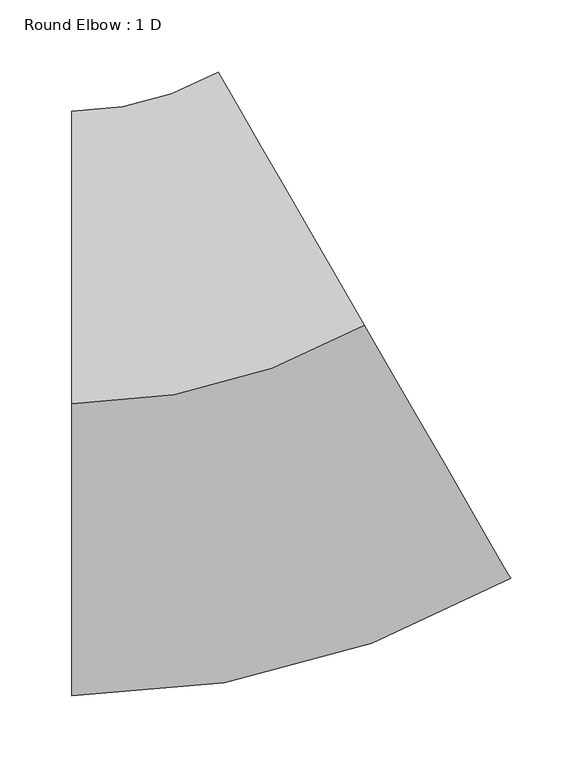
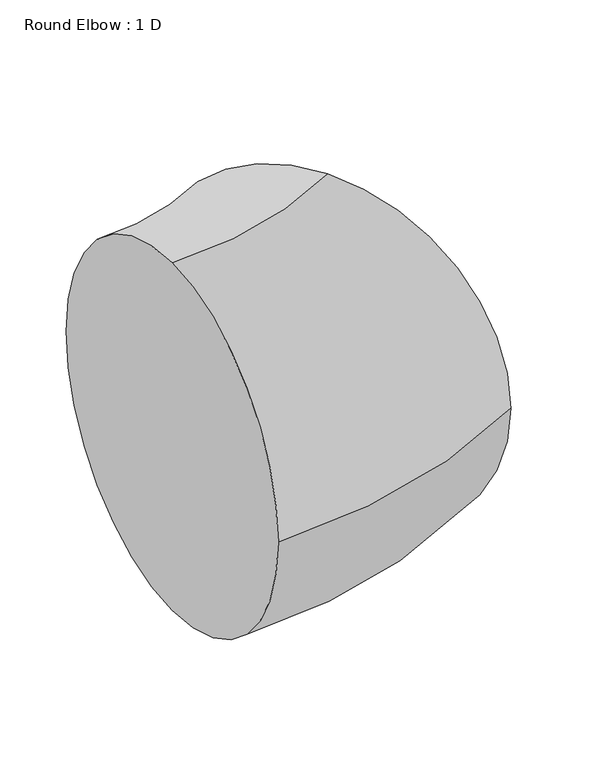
"""IFC4 building model written with IfcOpenShell, lengths in millimetres: duct fitting geometry, Round Elbow : 1 D."""

from ifc_helpers import new_model, si_unit, point, frame, origin, place, context, project, spatial, circle_curve, ellipse_curve, trimmed, source, transform, mapped, element, save
from ifc_brep_helpers import plane_surface, revolved_surface, advanced_brep


def round_elbow_1_d_31d37a02(model_context):
    return source(origin(), model_context, "Body", "AdvancedBrep", [
        advanced_brep(
        [(-108.8945518, 0.0, 203.2), (-108.8945518, 203.2, 0.0), (-108.8945518, 0.0, -203.2), (-108.8945518, -203.2, 0.0), (94.3054482, 54.4472759, 203.2), (195.9054482, -121.5290861, 0.0), (94.3054482, 54.4472759, -203.2), (-7.2945518, 230.423638, 0.0)],
        [
            (0, 1, circle_curve(frame((-108.8945518, 0.0, 0.0), z_axis=(-1.0, 0.0, 0.0), x_axis=(0.0, 1.0, 0.0)), 203.2)),
            (1, 2, circle_curve(frame((-108.8945518, 0.0, 0.0), z_axis=(-1.0, 0.0, 0.0), x_axis=(0.0, 1.0, 0.0)), 203.2)),
            (2, 3, circle_curve(frame((-108.8945518, 0.0, 0.0), z_axis=(-1.0, 0.0, 0.0), x_axis=(0.0, 1.0, 0.0)), 203.2)),
            (3, 0, circle_curve(frame((-108.8945518, 0.0, 0.0), z_axis=(-1.0, 0.0, 0.0), x_axis=(0.0, 1.0, 0.0)), 203.2)),
            (4, 5, circle_curve(frame((94.3054482, 54.4472759, 0.0), z_axis=(0.8660254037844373, 0.5000000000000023, 0.0), x_axis=(-0.5000000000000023, 0.8660254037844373, 0.0)), 203.2)),
            (5, 6, circle_curve(frame((94.3054482, 54.4472759, 0.0), z_axis=(0.8660254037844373, 0.5000000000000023, 0.0), x_axis=(-0.5000000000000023, 0.8660254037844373, 0.0)), 203.2)),
            (6, 7, circle_curve(frame((94.3054482, 54.4472759, 0.0), z_axis=(0.8660254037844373, 0.5000000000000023, 0.0), x_axis=(-0.5000000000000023, 0.8660254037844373, 0.0)), 203.2)),
            (7, 4, circle_curve(frame((94.3054482, 54.4472759, 0.0), z_axis=(0.8660254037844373, 0.5000000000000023, 0.0), x_axis=(-0.5000000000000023, 0.8660254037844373, 0.0)), 203.2)),
            (7, 1, circle_curve(frame((-108.8945518, 406.4, 0.0), z_axis=(0.0, 0.0, -1.0), x_axis=(0.0, -1.0, 0.0)), 203.2)),
            (0, 4, circle_curve(frame((-108.8945518, 406.4, 203.2), z_axis=(0.0, 0.0, 1.0), x_axis=(0.0, -1.0, 0.0)), 406.4)),
            (6, 2, circle_curve(frame((-108.8945518, 406.4, -203.2), z_axis=(0.0, 0.0, -1.0), x_axis=(0.0, -1.0, 0.0)), 406.4)),
            (5, 3, circle_curve(frame((-108.8945518, 406.4, 0.0), z_axis=(0.0, 0.0, -1.0), x_axis=(0.0, -1.0, 0.0)), 609.6)),
        ],
        [
            plane_surface(frame((-108.8945518, 0.0, 0.0), z_axis=(-1.0, 0.0, 0.0), x_axis=(0.0, 0.0, 1.0))),
            plane_surface(frame((94.3054482, 54.4472759, 0.0), z_axis=(0.8660254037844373, 0.5000000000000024, 0.0), x_axis=(0.0, 0.0, 1.0))),
            revolved_surface(trimmed(ellipse_curve(frame((-108.8945518, 0.0, 0.0), z_axis=(-1.0, 0.0, 0.0), x_axis=(0.0, 1.0, 0.0)), 203.2, 203.2), [point((-108.8945518, 0.0, 203.2))], [point((-108.8945518, 203.2, 0.0))], True, "CARTESIAN"), (-108.8945518, 406.4, 0.0), (0.0, 0.0, 1.0)),
            revolved_surface(trimmed(ellipse_curve(frame((-108.8945518, 0.0, 0.0), z_axis=(-1.0, 0.0, 0.0), x_axis=(0.0, 1.0, 0.0)), 203.2, 203.2), [point((-108.8945518, 203.2, 0.0))], [point((-108.8945518, 0.0, -203.2))], True, "CARTESIAN"), (-108.8945518, 406.4, 0.0), (0.0, 0.0, 1.0)),
            revolved_surface(trimmed(ellipse_curve(frame((-108.8945518, 0.0, 0.0), z_axis=(-1.0, 0.0, 0.0), x_axis=(0.0, 1.0, 0.0)), 203.2, 203.2), [point((-108.8945518, 0.0, -203.2))], [point((-108.8945518, -203.2, 0.0))], True, "CARTESIAN"), (-108.8945518, 406.4, 0.0), (0.0, 0.0, 1.0)),
            revolved_surface(trimmed(ellipse_curve(frame((-108.8945518, 0.0, 0.0), z_axis=(-1.0, 0.0, 0.0), x_axis=(0.0, 1.0, 0.0)), 203.2, 203.2), [point((-108.8945518, -203.2, 0.0))], [point((-108.8945518, 0.0, 203.2))], True, "CARTESIAN"), (-108.8945518, 406.4, 0.0), (0.0, 0.0, 1.0)),
        ],
        [
            (0, [[1, 2, 3, 4]]),
            (1, [[5, 6, 7, 8]]),
            (2, [[9, -1, 10, -8]]),
            (3, [[11, -2, -9, -7]]),
            (4, [[12, -3, -11, -6]]),
            (5, [[-10, -4, -12, -5]]),
        ],
    ),
    ])


if __name__ == "__main__":
    model = new_model("IFC4")
    model_context = context("Model", 3, world=origin())
    ifc_project = project(units=[si_unit("LENGTHUNIT", "METRE", prefix="MILLI")], contexts=[model_context])
    site = spatial("IfcSite", under=ifc_project)
    building = spatial("IfcBuilding", under=site)
    placement = place(None, origin())
    round_elbow_1_d_shape = round_elbow_1_d_31d37a02(model_context)
    element("IfcDuctFitting", 1, ObjectType="Round Elbow : 1 D", at=placement, inside=building, context=model_context, shape_type="MappedRepresentation", body=[
        mapped(round_elbow_1_d_shape, transform((0.0, 0.0, 0.0), x_axis=(1.0, 0.0, 0.0), y_axis=(0.0, 1.0, 0.0), z_axis=(0.0, 0.0, 1.0))),
    ])
    save(model, "model.ifc")
